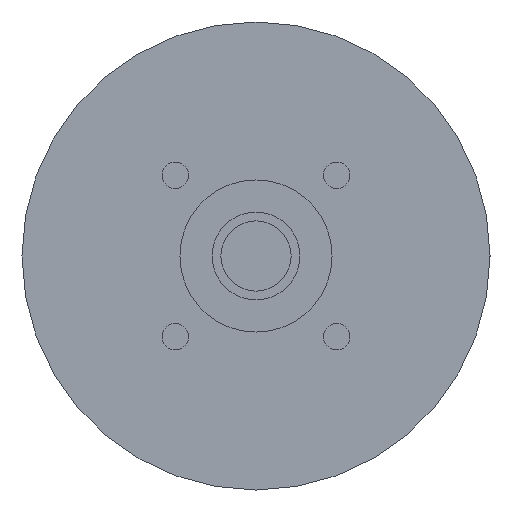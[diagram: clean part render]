
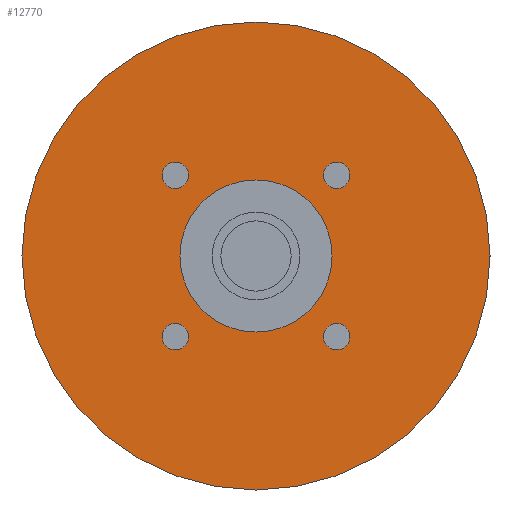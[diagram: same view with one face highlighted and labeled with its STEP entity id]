
A CAD part, left-side view. The second image highlights one B-rep face of the part: STEP entity #12770.
In plain terms, the highlighted planar face has unit normal (-1, 0, 0) as drawn and (0, 0, -1) by its records, which use the part's own axes.
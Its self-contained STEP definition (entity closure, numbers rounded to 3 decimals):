
#11550=CARTESIAN_POINT('',(0.,0.,
-42.2));
#11560=DIRECTION('',(0.,0.,-1.));
#11570=DIRECTION('',(0.,-1.,0.));
#11580=AXIS2_PLACEMENT_3D('',#11550,#11560,#11570);
#11590=CIRCLE('',#11580,40.);
#11600=CARTESIAN_POINT('',(0.,-40.,-42.2));
#11610=VERTEX_POINT('',#11600);
#11620=CARTESIAN_POINT('',(-40.,0.,-42.2));
#11630=VERTEX_POINT('',#11620);
#11640=EDGE_CURVE('',#11610,#11630,#11590,.T.);
#11780=CARTESIAN_POINT('',(40.,0.,-42.2));
#11790=VERTEX_POINT('',#11780);
#11820=EDGE_CURVE('',#11790,#11610,#11590,.T.);
#11870=CARTESIAN_POINT('',(0.,0.,
-42.2));
#11880=DIRECTION('',(0.,0.,-1.));
#11890=DIRECTION('',(1.,0.,0.));
#11900=AXIS2_PLACEMENT_3D('',#11870,#11880,#11890);
#11910=PLANE('',#11900);
#11920=CARTESIAN_POINT('',(13.789,13.789,-42.2));
#11930=DIRECTION('',(0.,0.,-1.));
#11940=DIRECTION('',(0.,1.,0.));
#11950=AXIS2_PLACEMENT_3D('',#11920,#11930,#11940);
#11960=CIRCLE('',#11950,2.25);
#11970=CARTESIAN_POINT('',(13.789,16.039,-42.2));
#11980=VERTEX_POINT('',#11970);
#11990=CARTESIAN_POINT('',(13.789,11.539,-42.2));
#12000=VERTEX_POINT('',#11990);
#12010=EDGE_CURVE('',#11980,#12000,#11960,.T.);
#12020=ORIENTED_EDGE('',*,*,#12010,.F.);
#12030=EDGE_CURVE('',#12000,#11980,#11960,.T.);
#12040=ORIENTED_EDGE('',*,*,#12030,.F.);
#12050=EDGE_LOOP('',(#12040,#12020));
#12060=FACE_BOUND('',#12050,.T.);
#12070=CARTESIAN_POINT('',(-13.789,13.789,-42.2));
#12080=DIRECTION('',(0.,0.,-1.));
#12090=DIRECTION('',(-1.,0.,0.));
#12100=AXIS2_PLACEMENT_3D('',#12070,#12080,#12090);
#12110=CIRCLE('',#12100,2.25);
#12120=CARTESIAN_POINT('',(-16.039,13.789,-42.2));
#12130=VERTEX_POINT('',#12120);
#12140=CARTESIAN_POINT('',(-11.539,13.789,-42.2));
#12150=VERTEX_POINT('',#12140);
#12160=EDGE_CURVE('',#12130,#12150,#12110,.T.);
#12170=ORIENTED_EDGE('',*,*,#12160,.F.);
#12180=EDGE_CURVE('',#12150,#12130,#12110,.T.);
#12190=ORIENTED_EDGE('',*,*,#12180,.F.);
#12200=EDGE_LOOP('',(#12190,#12170));
#12210=FACE_BOUND('',#12200,.T.);
#12220=CARTESIAN_POINT('',(-13.789,-13.789,-42.2));
#12230=DIRECTION('',(0.,0.,-1.));
#12240=DIRECTION('',(0.,-1.,0.));
#12250=AXIS2_PLACEMENT_3D('',#12220,#12230,#12240);
#12260=CIRCLE('',#12250,2.25);
#12270=CARTESIAN_POINT('',(-13.789,-16.039,-42.2));
#12280=VERTEX_POINT('',#12270);
#12290=CARTESIAN_POINT('',(-13.789,-11.539,-42.2));
#12300=VERTEX_POINT('',#12290);
#12310=EDGE_CURVE('',#12280,#12300,#12260,.T.);
#12320=ORIENTED_EDGE('',*,*,#12310,.F.);
#12330=EDGE_CURVE('',#12300,#12280,#12260,.T.);
#12340=ORIENTED_EDGE('',*,*,#12330,.F.);
#12350=EDGE_LOOP('',(#12340,#12320));
#12360=FACE_BOUND('',#12350,.T.);
#12370=CARTESIAN_POINT('',(0.,0.,
-42.2));
#12380=DIRECTION('',(0.,0.,1.));
#12390=DIRECTION('',(0.,1.,0.));
#12400=AXIS2_PLACEMENT_3D('',#12370,#12380,#12390);
#12410=CIRCLE('',#12400,13.);
#12420=CARTESIAN_POINT('',(-13.,0.,-42.2));
#12430=VERTEX_POINT('',#12420);
#12440=CARTESIAN_POINT('',(13.,0.,-42.2));
#12450=VERTEX_POINT('',#12440);
#12460=EDGE_CURVE('',#12430,#12450,#12410,.T.);
#12470=ORIENTED_EDGE('',*,*,#12460,.T.);
#12480=CARTESIAN_POINT('',(0.,13.,-42.2));
#12490=VERTEX_POINT('',#12480);
#12500=EDGE_CURVE('',#12490,#12430,#12410,.T.);
#12510=ORIENTED_EDGE('',*,*,#12500,.T.);
#12520=EDGE_CURVE('',#12450,#12490,#12410,.T.);
#12530=ORIENTED_EDGE('',*,*,#12520,.T.);
#12540=EDGE_LOOP('',(#12530,#12510,#12470));
#12550=FACE_BOUND('',#12540,.T.);
#12560=CARTESIAN_POINT('',(13.789,-13.789,-42.2));
#12570=DIRECTION('',(0.,0.,-1.));
#12580=DIRECTION('',(1.,0.,0.));
#12590=AXIS2_PLACEMENT_3D('',#12560,#12570,#12580);
#12600=CIRCLE('',#12590,2.25);
#12610=CARTESIAN_POINT('',(16.039,-13.789,-42.2));
#12620=VERTEX_POINT('',#12610);
#12630=CARTESIAN_POINT('',(11.539,-13.789,-42.2));
#12640=VERTEX_POINT('',#12630);
#12650=EDGE_CURVE('',#12620,#12640,#12600,.T.);
#12660=ORIENTED_EDGE('',*,*,#12650,.F.);
#12670=EDGE_CURVE('',#12640,#12620,#12600,.T.);
#12680=ORIENTED_EDGE('',*,*,#12670,.F.);
#12690=EDGE_LOOP('',(#12680,#12660));
#12700=FACE_BOUND('',#12690,.T.);
#12710=EDGE_CURVE('',#11630,#11790,#11590,.T.);
#12720=ORIENTED_EDGE('',*,*,#12710,.T.);
#12730=ORIENTED_EDGE('',*,*,#11640,.T.);
#12740=ORIENTED_EDGE('',*,*,#11820,.T.);
#12750=EDGE_LOOP('',(#12740,#12730,#12720));
#12760=FACE_OUTER_BOUND('',#12750,.T.);
#12770=ADVANCED_FACE('',(#12060,#12210,#12360,#12550,#12700,#12760),
#11910,.T.);
